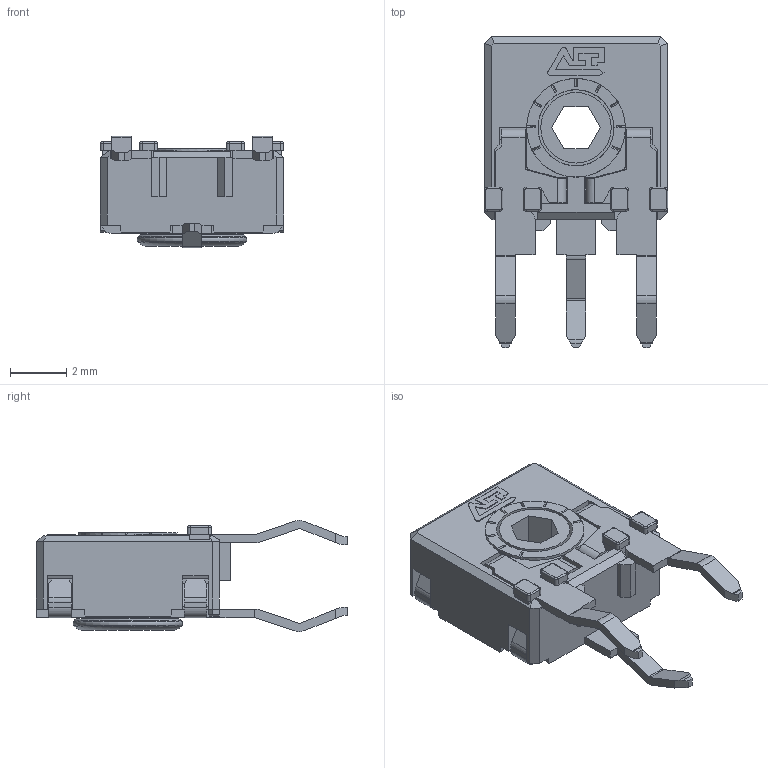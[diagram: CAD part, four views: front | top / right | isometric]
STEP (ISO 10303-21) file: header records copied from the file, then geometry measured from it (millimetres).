
FILE_DESCRIPTION(/* description */ (''),/* implementation_level */ '2;1');
FILE_NAME(/* name */ 'C:\Users\CEM\Desktop\ENVIAR\TRANSICION 3D CATALOGOS\COMCA6MH2,5 SNP.stp',/* time_stamp */ '2026-03-20T08:30:50+01:00',/* author */ ('CEM'),/* organization */ (''),/* preprocessor_version */ 'ST-DEVELOPER v16.13',/* originating_system */ 'Autodesk Inventor 2018',/* authorisation */ '');
FILE_SCHEMA (('AUTOMOTIVE_DESIGN { 1 0 10303 214 3 1 1 }'));
Length unit declared in the file: millimetre
Products named in the file (1): CARCASA CA6
Bounding box: 6.5 x 11.05 x 3.95 mm (x, y, z)
Volume: 89.5 mm3; surface area: 375.4 mm2
Topology: 1 solids, 1 shells, 542 faces, 1511 edges, 968 vertices
Faces by surface type: plane 411, cylinder 92, cone 17, bspline 16, torus 6
Full cylindrical faces by diameter (mm): 2.5 x1, 2.7 x1, 2.9 x1, 3.1 x1, 3.5 x1
Entity records: 17329 total; most frequent: CARTESIAN_POINT 3181, ORIENTED_EDGE 2988, DIRECTION 2792, EDGE_CURVE 1493, LINE 1196, VECTOR 1196, VERTEX_POINT 965, AXIS2_PLACEMENT_3D 798
